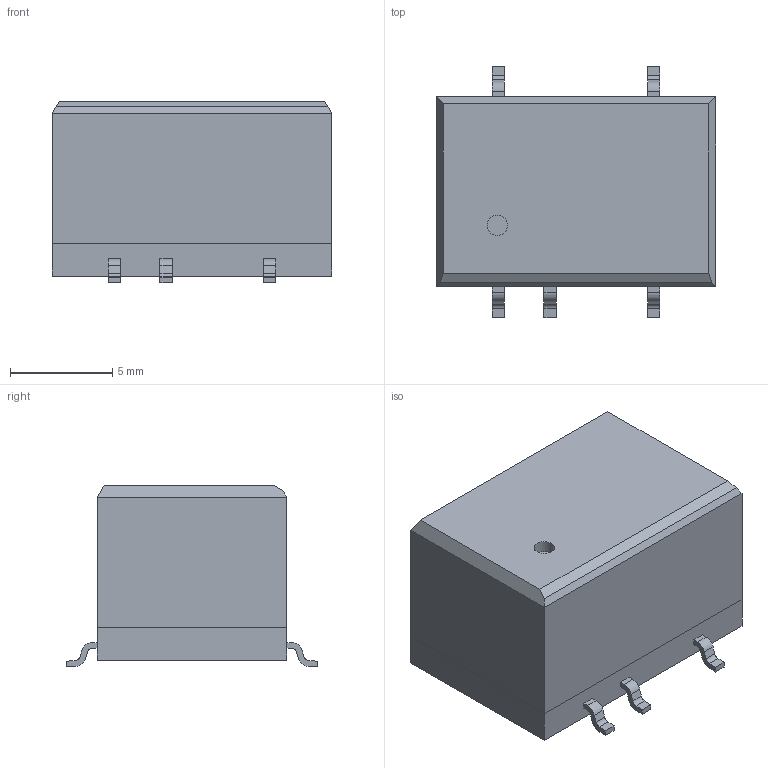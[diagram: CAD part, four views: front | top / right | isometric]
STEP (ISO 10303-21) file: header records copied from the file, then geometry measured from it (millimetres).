
FILE_DESCRIPTION(/* description */ (''),/* implementation_level */ '2;1');
FILE_NAME(/* name */ 'C:\Users\Calliope\Desktop\MS+水洗孔3D\MSLU400-S-W 3D(TES 2H Single).stp',/* time_stamp */ '2016-03-17T14:10:57+08:00',/* author */ ('Calliope'),/* organization */ (''),/* preprocessor_version */ 'ST-DEVELOPER v15.6',/* originating_system */ 'Autodesk Inventor 2015',/* authorisation */ '');
FILE_SCHEMA (('AUTOMOTIVE_DESIGN { 1 0 10303 214 3 1 1 }'));
Length unit declared in the file: millimetre
Products named in the file (3): MSLU400S Header; MSLU400S-W Cover; MSLU400S-W
Assembly tree (2 placements, depth 2):
  MSLU400S-W
    MSLU400S Header
    MSLU400S-W Cover
Bounding box: 13.7 x 12.3 x 8.9 mm (x, y, z)
Volume: 675.8 mm3; surface area: 1300.1 mm2
Topology: 2 solids, 2 shells, 135 faces, 342 edges, 227 vertices
Faces by surface type: plane 113, cylinder 22
Full cylindrical faces by diameter (mm): 1 x2
Entity records: 4163 total; most frequent: CARTESIAN_POINT 705, ORIENTED_EDGE 678, DIRECTION 663, EDGE_CURVE 339, LINE 295, VECTOR 295, VERTEX_POINT 226, AXIS2_PLACEMENT_3D 184
